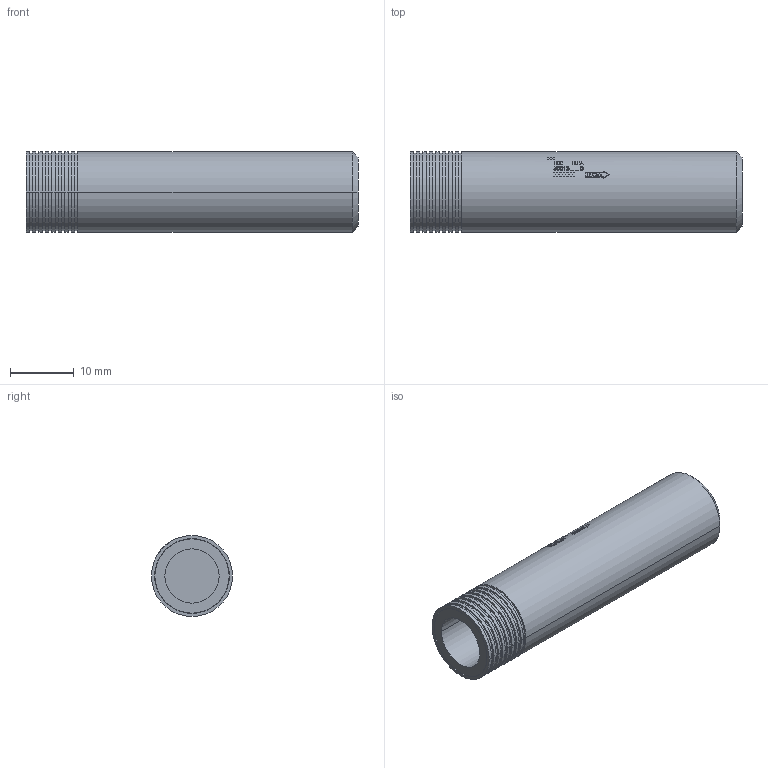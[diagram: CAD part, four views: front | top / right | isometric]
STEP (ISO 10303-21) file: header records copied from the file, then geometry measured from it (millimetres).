
FILE_DESCRIPTION (( 'STEP AP214' ), '1' );
FILE_NAME ('3DFLFA50013--D.STEP', '2021-04-01T17:25:46', ( '' ), ( '' ), 'SwSTEP 2.0', 'SolidWorks 2019', '' );
FILE_SCHEMA (( 'AUTOMOTIVE_DESIGN' ));
Length unit declared in the file: inch
Products named in the file (1): 3DFLFA50013--D
Bounding box: 52.07 x 12.7 x 12.7 mm (x, y, z)
Volume: 6090 mm3; surface area: 2689.7 mm2
Topology: 1 solids, 1 shells, 386 faces, 992 edges, 660 vertices
Faces by surface type: plane 170, bspline 140, cylinder 72, cone 4
Entity records: 19019 total; most frequent: CARTESIAN_POINT 6600, ORIENTED_EDGE 1984, DIRECTION 1198, EDGE_CURVE 992, VERTEX_POINT 660, B_SPLINE_CURVE_WITH_KNOTS 472, EDGE_LOOP 438, AXIS2_PLACEMENT_3D 431
